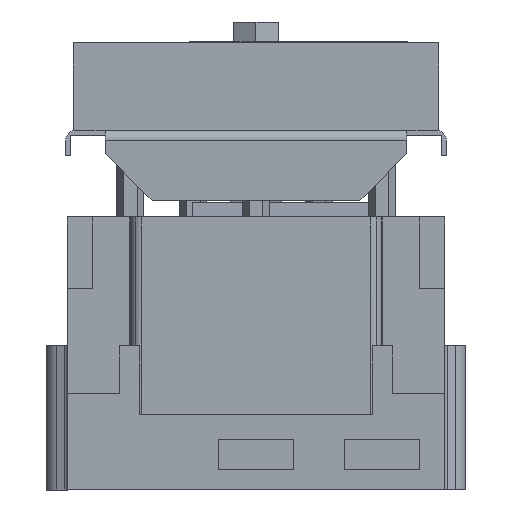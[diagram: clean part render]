
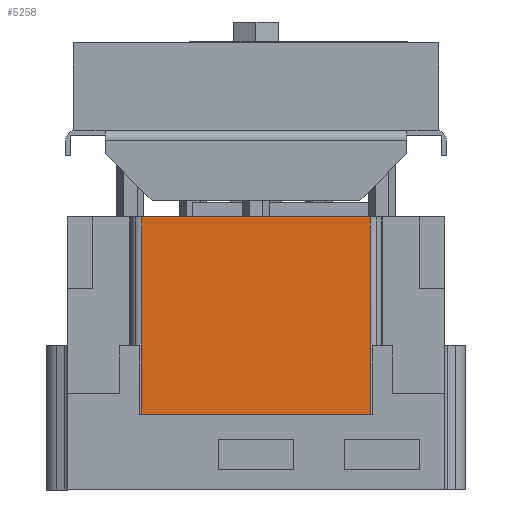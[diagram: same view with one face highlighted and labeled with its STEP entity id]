
A CAD part, front view. The second image highlights one B-rep face of the part: STEP entity #5258.
In plain terms, the highlighted planar face has unit normal (0, -1, 0).
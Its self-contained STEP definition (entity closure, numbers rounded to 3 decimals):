
#134 = CARTESIAN_POINT ( 'NONE',  ( -180.5, -0.2, -71.493 ) ) ;
#158 = CARTESIAN_POINT ( 'NONE',  ( -44.5, -0.2, -71.493 ) ) ;
#182 = DIRECTION ( 'NONE',  ( 0., 0., 1. ) ) ;
#663 = LINE ( 'NONE', #1932, #3739 ) ;
#978 = EDGE_CURVE ( 'NONE', #6399, #5253, #2017, .T. ) ;
#1575 = LINE ( 'NONE', #158, #3102 ) ;
#1778 = EDGE_CURVE ( 'NONE', #6399, #3752, #1575, .T. ) ;
#1932 = CARTESIAN_POINT ( 'NONE',  ( -180.5, -0.2, 162.85 ) ) ;
#2011 = FACE_OUTER_BOUND ( 'NONE', #4114, .T. ) ;
#2017 = LINE ( 'NONE', #2509, #7261 ) ;
#2366 = DIRECTION ( 'NONE',  ( -1., 0., 0. ) ) ;
#2509 = CARTESIAN_POINT ( 'NONE',  ( -44.5, -0.2, 45. ) ) ;
#2618 = ORIENTED_EDGE ( 'NONE', *, *, #978, .F. ) ;
#2736 = PLANE ( 'NONE',  #5936 ) ;
#2761 = DIRECTION ( 'NONE',  ( 1., 0., 0. ) ) ;
#3102 = VECTOR ( 'NONE', #4077, 1000. ) ;
#3463 = ORIENTED_EDGE ( 'NONE', *, *, #1778, .T. ) ;
#3589 = EDGE_CURVE ( 'NONE', #5253, #6299, #8279, .T. ) ;
#3739 = VECTOR ( 'NONE', #8513, 1000. ) ;
#3752 = VERTEX_POINT ( 'NONE', #5629 ) ;
#4011 = CARTESIAN_POINT ( 'NONE',  ( -44.5, -0.2, 45. ) ) ;
#4077 = DIRECTION ( 'NONE',  ( 0., 0., 1. ) ) ;
#4114 = EDGE_LOOP ( 'NONE', ( #7098, #2618, #3463, #8405 ) ) ;
#4806 = CARTESIAN_POINT ( 'NONE',  ( -180.5, -0.2, 162.85 ) ) ;
#4967 = EDGE_CURVE ( 'NONE', #6299, #3752, #663, .T. ) ;
#5253 = VERTEX_POINT ( 'NONE', #8005 ) ;
#5258 = ADVANCED_FACE ( 'NONE', ( #2011 ), #2736, .T. ) ;
#5629 = CARTESIAN_POINT ( 'NONE',  ( -44.5, -0.2, 162.85 ) ) ;
#5936 = AXIS2_PLACEMENT_3D ( 'NONE', #134, #6707, #2761 ) ;
#6299 = VERTEX_POINT ( 'NONE', #4806 ) ;
#6399 = VERTEX_POINT ( 'NONE', #4011 ) ;
#6513 = VECTOR ( 'NONE', #182, 1000. ) ;
#6707 = DIRECTION ( 'NONE',  ( 0., -1., 0. ) ) ;
#6729 = CARTESIAN_POINT ( 'NONE',  ( -180.5, -0.2, -71.493 ) ) ;
#7098 = ORIENTED_EDGE ( 'NONE', *, *, #3589, .F. ) ;
#7261 = VECTOR ( 'NONE', #2366, 1000. ) ;
#8005 = CARTESIAN_POINT ( 'NONE',  ( -180.5, -0.2, 45. ) ) ;
#8279 = LINE ( 'NONE', #6729, #6513 ) ;
#8405 = ORIENTED_EDGE ( 'NONE', *, *, #4967, .F. ) ;
#8513 = DIRECTION ( 'NONE',  ( 1., 0., 0. ) ) ;
